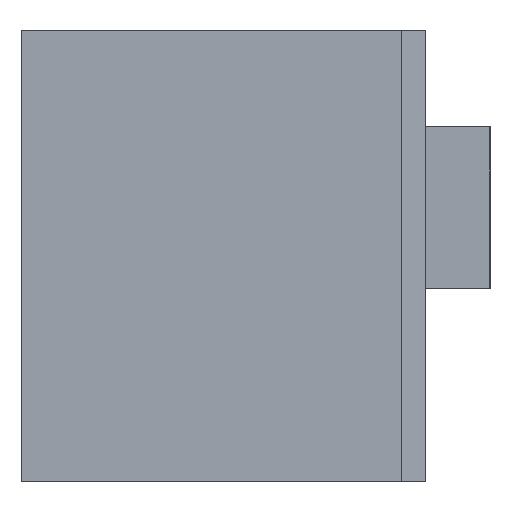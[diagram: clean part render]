
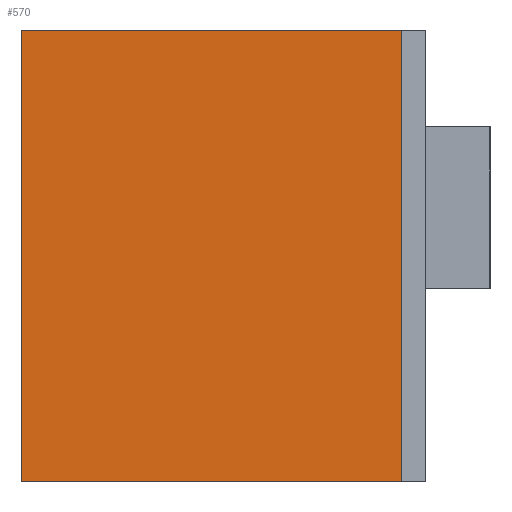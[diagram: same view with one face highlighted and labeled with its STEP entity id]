
A CAD part, front view. The second image highlights one B-rep face of the part: STEP entity #570.
In plain terms, the highlighted planar face has unit normal (0, -1, 0).
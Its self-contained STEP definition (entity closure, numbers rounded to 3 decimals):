
#15 = CARTESIAN_POINT ( 'NONE',  ( 23.5, -40., -70. ) ) ;
#25 = ORIENTED_EDGE ( 'NONE', *, *, #985, .T. ) ;
#43 = ORIENTED_EDGE ( 'NONE', *, *, #1032, .F. ) ;
#84 = EDGE_CURVE ( 'NONE', #174, #216, #615, .T. ) ;
#91 = DIRECTION ( 'NONE',  ( -1., 0., 0. ) ) ;
#113 = LINE ( 'NONE', #973, #117 ) ;
#117 = VECTOR ( 'NONE', #1058, 1000. ) ;
#163 = AXIS2_PLACEMENT_3D ( 'NONE', #376, #776, #464 ) ;
#174 = VERTEX_POINT ( 'NONE', #955 ) ;
#187 = LINE ( 'NONE', #867, #968 ) ;
#208 = VERTEX_POINT ( 'NONE', #856 ) ;
#216 = VERTEX_POINT ( 'NONE', #15 ) ;
#248 = CARTESIAN_POINT ( 'NONE',  ( 23.5, -40., -77. ) ) ;
#250 = VECTOR ( 'NONE', #928, 1000. ) ;
#376 = CARTESIAN_POINT ( 'NONE',  ( 12.5, -40., -84. ) ) ;
#381 = ORIENTED_EDGE ( 'NONE', *, *, #84, .F. ) ;
#417 = ORIENTED_EDGE ( 'NONE', *, *, #607, .F. ) ;
#443 = DIRECTION ( 'NONE',  ( 1., 0., 0. ) ) ;
#464 = DIRECTION ( 'NONE',  ( 0., 0., -1. ) ) ;
#570 = ADVANCED_FACE ( 'NONE', ( #630 ), #874, .T. ) ;
#607 = EDGE_CURVE ( 'NONE', #817, #174, #113, .T. ) ;
#615 = LINE ( 'NONE', #775, #680 ) ;
#630 = FACE_OUTER_BOUND ( 'NONE', #990, .T. ) ;
#676 = LINE ( 'NONE', #248, #250 ) ;
#680 = VECTOR ( 'NONE', #443, 1000. ) ;
#775 = CARTESIAN_POINT ( 'NONE',  ( 12.5, -40., -70. ) ) ;
#776 = DIRECTION ( 'NONE',  ( 0., -1., 0. ) ) ;
#817 = VERTEX_POINT ( 'NONE', #995 ) ;
#856 = CARTESIAN_POINT ( 'NONE',  ( 23.5, -40., -98. ) ) ;
#867 = CARTESIAN_POINT ( 'NONE',  ( 12.5, -40., -98. ) ) ;
#874 = PLANE ( 'NONE',  #163 ) ;
#928 = DIRECTION ( 'NONE',  ( 0., 0., 1. ) ) ;
#955 = CARTESIAN_POINT ( 'NONE',  ( 0., -40., -70. ) ) ;
#968 = VECTOR ( 'NONE', #91, 1000. ) ;
#973 = CARTESIAN_POINT ( 'NONE',  ( 0., -40., -84. ) ) ;
#985 = EDGE_CURVE ( 'NONE', #208, #216, #676, .T. ) ;
#990 = EDGE_LOOP ( 'NONE', ( #25, #381, #417, #43 ) ) ;
#995 = CARTESIAN_POINT ( 'NONE',  ( 0., -40., -98. ) ) ;
#1032 = EDGE_CURVE ( 'NONE', #208, #817, #187, .T. ) ;
#1058 = DIRECTION ( 'NONE',  ( 0., 0., 1. ) ) ;
